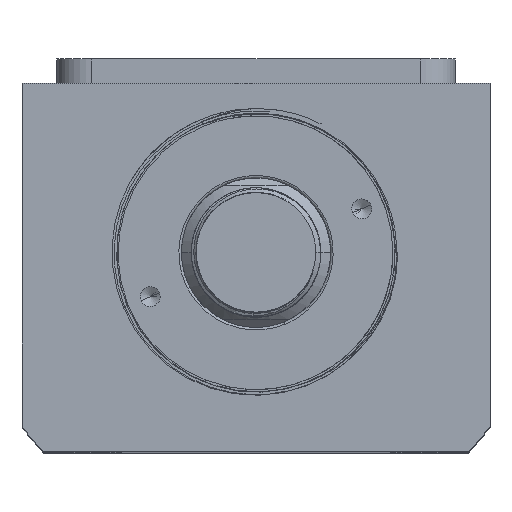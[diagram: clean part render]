
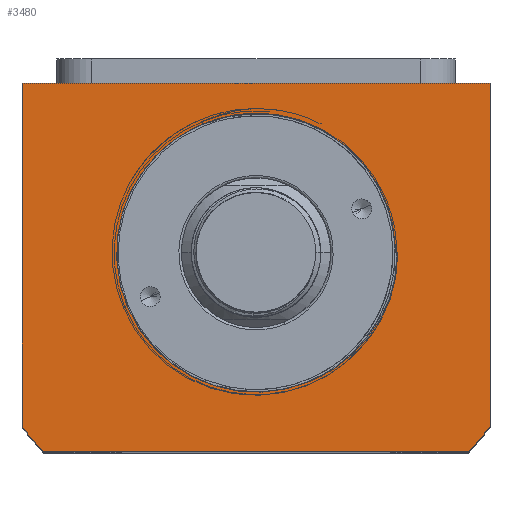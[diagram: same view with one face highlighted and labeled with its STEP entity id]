
A CAD part, top view. The second image highlights one B-rep face of the part: STEP entity #3480.
In plain terms, the highlighted planar face has unit normal (0, 0, 1).
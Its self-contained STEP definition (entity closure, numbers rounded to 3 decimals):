
#157 = EDGE_CURVE ( 'NONE', #13871, #15483, #6410, .T. ) ;
#335 = ORIENTED_EDGE ( 'NONE', *, *, #19162, .T. ) ;
#525 = CARTESIAN_POINT ( 'NONE',  ( 47., -34.832, 67.5 ) ) ;
#823 = DIRECTION ( 'NONE',  ( 1., 0., 0. ) ) ;
#886 = CARTESIAN_POINT ( 'NONE',  ( 24.178, -14.712, 67.5 ) ) ;
#1149 = FACE_OUTER_BOUND ( 'NONE', #17229, .T. ) ;
#1457 = ORIENTED_EDGE ( 'NONE', *, *, #5496, .F. ) ;
#1501 = DIRECTION ( 'NONE',  ( 0., 0., -1. ) ) ;
#1867 = CARTESIAN_POINT ( 'NONE',  ( -47., 34., 67.5 ) ) ;
#2116 = CIRCLE ( 'NONE', #4567, 28. ) ;
#2266 = CARTESIAN_POINT ( 'NONE',  ( 10.232, -26.064, 67.5 ) ) ;
#2448 = VERTEX_POINT ( 'NONE', #2789 ) ;
#2616 = DIRECTION ( 'NONE',  ( 0., 0., 1. ) ) ;
#2728 = CIRCLE ( 'NONE', #4420, 58.5 ) ;
#2789 = CARTESIAN_POINT ( 'NONE',  ( 10.232, -26.064, 67.5 ) ) ;
#2808 = EDGE_CURVE ( 'NONE', #3338, #5607, #4001, .T. ) ;
#3050 = EDGE_CURVE ( 'NONE', #5607, #13871, #11281, .T. ) ;
#3223 = VECTOR ( 'NONE', #4126, 1000. ) ;
#3338 = VERTEX_POINT ( 'NONE', #14887 ) ;
#3480 = ADVANCED_FACE ( 'NONE', ( #16447, #1149 ), #17622, .T. ) ;
#3491 = CARTESIAN_POINT ( 'NONE',  ( 28.495, 0., 67.5 ) ) ;
#3747 = CARTESIAN_POINT ( 'NONE',  ( 0., 0., 67.5 ) ) ;
#3878 = CARTESIAN_POINT ( 'NONE',  ( 16.467, -22.819, 67.5 ) ) ;
#3951 = VERTEX_POINT ( 'NONE', #525 ) ;
#4001 = LINE ( 'NONE', #1867, #19272 ) ;
#4126 = DIRECTION ( 'NONE',  ( 1., 0., 0. ) ) ;
#4132 = ORIENTED_EDGE ( 'NONE', *, *, #16758, .T. ) ;
#4420 = AXIS2_PLACEMENT_3D ( 'NONE', #3747, #12954, #823 ) ;
#4567 = AXIS2_PLACEMENT_3D ( 'NONE', #9125, #1501, #6295 ) ;
#4589 = ORIENTED_EDGE ( 'NONE', *, *, #18923, .T. ) ;
#4715 = LINE ( 'NONE', #9718, #11486 ) ;
#5018 = CARTESIAN_POINT ( 'NONE',  ( 27.887, -5.628, 67.5 ) ) ;
#5189 = VERTEX_POINT ( 'NONE', #7733 ) ;
#5324 = CARTESIAN_POINT ( 'NONE',  ( 15.3, -23.593, 67.5 ) ) ;
#5373 = VECTOR ( 'NONE', #6896, 1000. ) ;
#5496 = EDGE_CURVE ( 'NONE', #5189, #12434, #9609, .T. ) ;
#5587 = CARTESIAN_POINT ( 'NONE',  ( 19.714, -20.129, 67.5 ) ) ;
#5607 = VERTEX_POINT ( 'NONE', #18828 ) ;
#5682 = DIRECTION ( 'NONE',  ( 1., 0., 0. ) ) ;
#5931 = ORIENTED_EDGE ( 'NONE', *, *, #2808, .T. ) ;
#6077 = EDGE_LOOP ( 'NONE', ( #1457, #4589, #335 ) ) ;
#6295 = DIRECTION ( 'NONE',  ( 1., 0., 0. ) ) ;
#6406 = DIRECTION ( 'NONE',  ( -1., 0., 0. ) ) ;
#6410 = CIRCLE ( 'NONE', #16602, 58.5 ) ;
#6436 = DIRECTION ( 'NONE',  ( 1., 0., 0. ) ) ;
#6502 = CARTESIAN_POINT ( 'NONE',  ( 26.694, -9.657, 67.5 ) ) ;
#6544 = EDGE_CURVE ( 'NONE', #18859, #3951, #2728, .T. ) ;
#6571 = CARTESIAN_POINT ( 'NONE',  ( 42.688, -40., 67.5 ) ) ;
#6630 = CARTESIAN_POINT ( 'NONE',  ( 28.323, -2.832, 67.5 ) ) ;
#6896 = DIRECTION ( 'NONE',  ( -1., 0., 0. ) ) ;
#7277 = CARTESIAN_POINT ( 'NONE',  ( 42.688, -40., 67.5 ) ) ;
#7733 = CARTESIAN_POINT ( 'NONE',  ( 28.495, 0., 67.5 ) ) ;
#8201 = CARTESIAN_POINT ( 'NONE',  ( 28.449, -1.419, 67.5 ) ) ;
#8397 = CARTESIAN_POINT ( 'NONE',  ( 18.667, -21.077, 67.5 ) ) ;
#8541 = CARTESIAN_POINT ( 'NONE',  ( 18.129, -21.529, 67.5 ) ) ;
#8634 = CARTESIAN_POINT ( 'NONE',  ( 0., 0., 67.5 ) ) ;
#9125 = CARTESIAN_POINT ( 'NONE',  ( 0., 0., 67.5 ) ) ;
#9609 = LINE ( 'NONE', #15904, #5373 ) ;
#9718 = CARTESIAN_POINT ( 'NONE',  ( 47., 34., 67.5 ) ) ;
#9900 = CARTESIAN_POINT ( 'NONE',  ( 26.163, -10.961, 67.5 ) ) ;
#9967 = DIRECTION ( 'NONE',  ( 0., 1., 0. ) ) ;
#10449 = ORIENTED_EDGE ( 'NONE', *, *, #157, .T. ) ;
#10802 = CARTESIAN_POINT ( 'NONE',  ( 28., 0., 67.5 ) ) ;
#11281 = LINE ( 'NONE', #17297, #16464 ) ;
#11316 = DIRECTION ( 'NONE',  ( 0., -1., 0. ) ) ;
#11481 = CARTESIAN_POINT ( 'NONE',  ( 20.224, -19.631, 67.5 ) ) ;
#11486 = VECTOR ( 'NONE', #9967, 1000. ) ;
#11495 = EDGE_CURVE ( 'NONE', #3951, #3338, #4715, .T. ) ;
#11949 = B_SPLINE_CURVE_WITH_KNOTS ( 'NONE', 3,
 ( #3491, #14013, #8201, #6630, #17152, #5018, #15525, #6502, #9900, #13023, #886, #15959, #17529, #11481, #5587, #8397, #8541, #3878, #5324, #14325, #18889, #16024, #19087, #2266 ),
 .UNSPECIFIED., .F., .F.,
 ( 4, 2, 2, 2, 2, 2, 2, 2, 2, 2, 2, 4 ),
 ( 0., 0.002, 0.004, 0.009, 0.013, 0.017, 0.021, 0.023, 0.026, 0.03, 0.032, 0.034 ),
 .UNSPECIFIED. ) ;
#11955 = LINE ( 'NONE', #7277, #3223 ) ;
#12434 = VERTEX_POINT ( 'NONE', #10802 ) ;
#12695 = CARTESIAN_POINT ( 'NONE',  ( -42.688, -40., 67.5 ) ) ;
#12954 = DIRECTION ( 'NONE',  ( 0., 0., 1. ) ) ;
#13023 = CARTESIAN_POINT ( 'NONE',  ( 24.898, -13.504, 67.5 ) ) ;
#13871 = VERTEX_POINT ( 'NONE', #17225 ) ;
#14013 = CARTESIAN_POINT ( 'NONE',  ( 28.485, -0.71, 67.5 ) ) ;
#14122 = CARTESIAN_POINT ( 'NONE',  ( 0., 0., 67.5 ) ) ;
#14325 = CARTESIAN_POINT ( 'NONE',  ( 13.459, -24.624, 67.5 ) ) ;
#14887 = CARTESIAN_POINT ( 'NONE',  ( 47., 34., 67.5 ) ) ;
#14964 = AXIS2_PLACEMENT_3D ( 'NONE', #8634, #2616, #5682 ) ;
#15483 = VERTEX_POINT ( 'NONE', #12695 ) ;
#15525 = CARTESIAN_POINT ( 'NONE',  ( 27.555, -6.99, 67.5 ) ) ;
#15698 = DIRECTION ( 'NONE',  ( 0., 0., 1. ) ) ;
#15904 = CARTESIAN_POINT ( 'NONE',  ( 0., 0., 67.5 ) ) ;
#15959 = CARTESIAN_POINT ( 'NONE',  ( 22.571, -17.007, 67.5 ) ) ;
#16024 = CARTESIAN_POINT ( 'NONE',  ( 11.542, -25.544, 67.5 ) ) ;
#16112 = ORIENTED_EDGE ( 'NONE', *, *, #6544, .T. ) ;
#16447 = FACE_BOUND ( 'NONE', #6077, .T. ) ;
#16464 = VECTOR ( 'NONE', #11316, 1000. ) ;
#16497 = ORIENTED_EDGE ( 'NONE', *, *, #3050, .T. ) ;
#16602 = AXIS2_PLACEMENT_3D ( 'NONE', #14122, #15698, #6436 ) ;
#16758 = EDGE_CURVE ( 'NONE', #15483, #18859, #11955, .T. ) ;
#17152 = CARTESIAN_POINT ( 'NONE',  ( 28.233, -3.538, 67.5 ) ) ;
#17225 = CARTESIAN_POINT ( 'NONE',  ( -47., -34.832, 67.5 ) ) ;
#17229 = EDGE_LOOP ( 'NONE', ( #5931, #16497, #10449, #4132, #16112, #17763 ) ) ;
#17297 = CARTESIAN_POINT ( 'NONE',  ( -47., -34.832, 67.5 ) ) ;
#17529 = CARTESIAN_POINT ( 'NONE',  ( 21.684, -18.094, 67.5 ) ) ;
#17622 = PLANE ( 'NONE',  #14964 ) ;
#17763 = ORIENTED_EDGE ( 'NONE', *, *, #11495, .T. ) ;
#18828 = CARTESIAN_POINT ( 'NONE',  ( -47., 34., 67.5 ) ) ;
#18859 = VERTEX_POINT ( 'NONE', #6571 ) ;
#18889 = CARTESIAN_POINT ( 'NONE',  ( 12.831, -24.945, 67.5 ) ) ;
#18923 = EDGE_CURVE ( 'NONE', #5189, #2448, #11949, .T. ) ;
#19087 = CARTESIAN_POINT ( 'NONE',  ( 10.89, -25.816, 67.5 ) ) ;
#19162 = EDGE_CURVE ( 'NONE', #2448, #12434, #2116, .T. ) ;
#19272 = VECTOR ( 'NONE', #6406, 1000. ) ;
